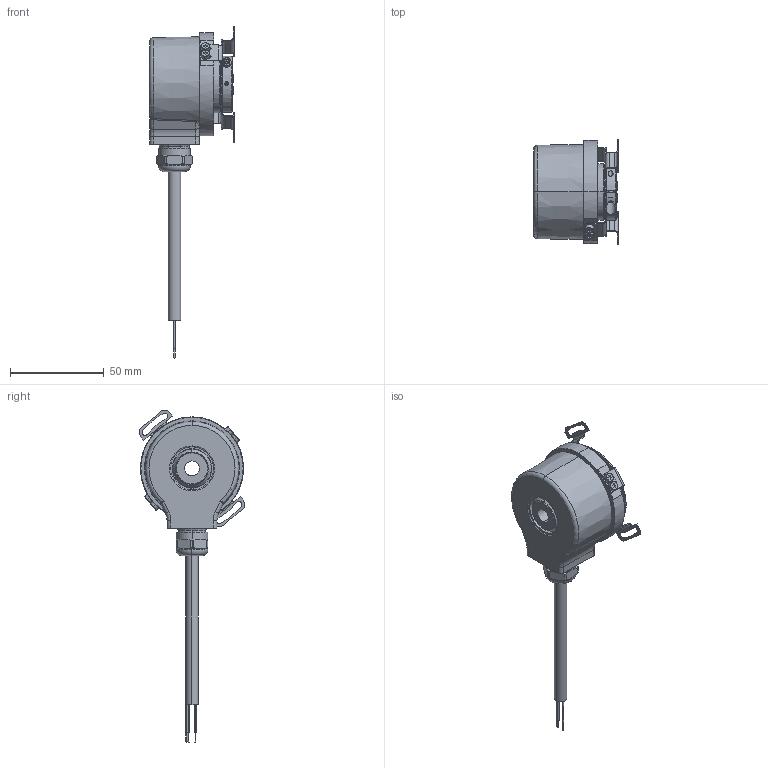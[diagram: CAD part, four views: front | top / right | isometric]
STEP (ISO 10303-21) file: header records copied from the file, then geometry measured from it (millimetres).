
FILE_DESCRIPTION (( 'STEP AP203' ), '1' );
FILE_NAME ('8.5020.D9X1.0200.STEP', '2017-03-06T09:19:24', ( '' ), ( '' ), 'SwSTEP 2.0', 'SolidWorks 2013', '' );
FILE_SCHEMA (( 'CONFIG_CONTROL_DESIGN' ));
Length unit declared in the file: millimetre
Products named in the file (1): 8.5020.D9X1.0200
Bounding box: 45.2 x 56.46 x 177.19 mm (x, y, z)
Volume: 54153.9 mm3; surface area: 43776.8 mm2
Topology: 24 solids, 25 shells, 766 faces, 1863 edges, 1139 vertices
Faces by surface type: cylinder 268, plane 245, cone 142, torus 67, sphere 36, bspline 8
Entity records: 23675 total; most frequent: CARTESIAN_POINT 5997, DIRECTION 3874, ORIENTED_EDGE 3494, EDGE_CURVE 1747, AXIS2_PLACEMENT_3D 1574, VERTEX_POINT 1085, EDGE_LOOP 898, CIRCLE 815
